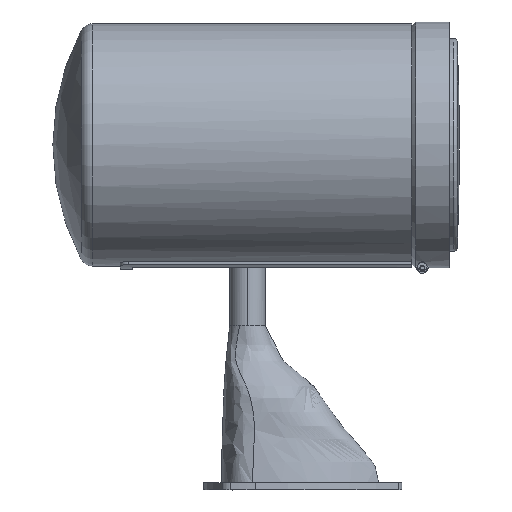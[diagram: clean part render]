
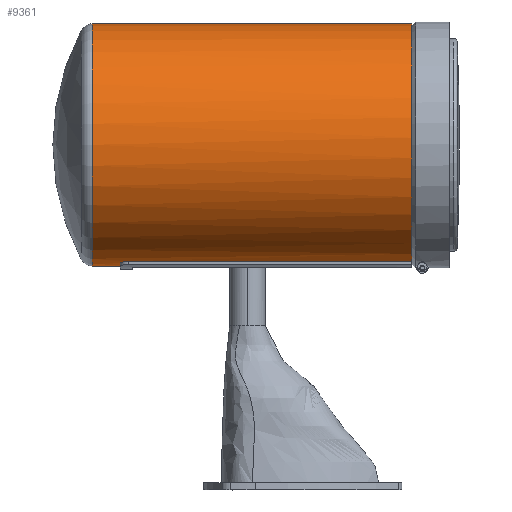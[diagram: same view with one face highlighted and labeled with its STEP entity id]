
A CAD part, top view. The second image highlights one B-rep face of the part: STEP entity #9361.
In plain terms, the highlighted cylindrical face has radius 74.93 mm (diameter 149.86 mm), a partial arc.
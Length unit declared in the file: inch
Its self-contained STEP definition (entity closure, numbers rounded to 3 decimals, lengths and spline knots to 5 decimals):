
#48 = CARTESIAN_POINT ( 'NONE',  ( 0.86, 0.63, 2.88194 ) ) ;
#50 = DIRECTION ( 'NONE',  ( 0., 0., -1. ) ) ;
#93 = CARTESIAN_POINT ( 'NONE',  ( 0.93687, 0.78808, 2.8428 ) ) ;
#149 = DIRECTION ( 'NONE',  ( -1., 0., 0. ) ) ;
#231 = DIRECTION ( 'NONE',  ( -1., 0., 0. ) ) ;
#544 = CARTESIAN_POINT ( 'NONE',  ( 7.96, 0., 2.95 ) ) ;
#697 = EDGE_CURVE ( 'NONE', #7071, #6624, #7953, .T. ) ;
#895 = AXIS2_PLACEMENT_3D ( 'NONE', #7655, #149, #2030 ) ;
#1018 = CARTESIAN_POINT ( 'NONE',  ( 0.9702, 0.80898, 2.83691 ) ) ;
#1165 = VERTEX_POINT ( 'NONE', #7844 ) ;
#1479 = VERTEX_POINT ( 'NONE', #9478 ) ;
#1577 = AXIS2_PLACEMENT_3D ( 'NONE', #6619, #4746, #5712 ) ;
#1861 = CYLINDRICAL_SURFACE ( 'NONE', #895, 2.95 ) ;
#1976 = CARTESIAN_POINT ( 'NONE',  ( 0.99465, 0.81895, 2.83405 ) ) ;
#2030 = DIRECTION ( 'NONE',  ( 0., 0., 1. ) ) ;
#2170 = FACE_OUTER_BOUND ( 'NONE', #9550, .T. ) ;
#2699 = AXIS2_PLACEMENT_3D ( 'NONE', #11274, #5675, #50 ) ;
#2723 = EDGE_CURVE ( 'NONE', #7071, #1479, #11773, .T. ) ;
#2730 = VECTOR ( 'NONE', #231, 39.37008 ) ;
#2902 = CARTESIAN_POINT ( 'NONE',  ( 1.01371, 0.82456, 2.83242 ) ) ;
#3154 = CARTESIAN_POINT ( 'NONE',  ( 7.96, 0., -2.95 ) ) ;
#3395 = ORIENTED_EDGE ( 'NONE', *, *, #4806, .T. ) ;
#3825 = CARTESIAN_POINT ( 'NONE',  ( 0.8664, 0.68155, 2.87022 ) ) ;
#3879 = CARTESIAN_POINT ( 'NONE',  ( 1.0466, 0.83, 2.83083 ) ) ;
#4228 = CIRCLE ( 'NONE', #2699, 2.95 ) ;
#4382 = EDGE_CURVE ( 'NONE', #9000, #9519, #5451, .T. ) ;
#4431 = DIRECTION ( 'NONE',  ( 1., 0., 0. ) ) ;
#4568 = ORIENTED_EDGE ( 'NONE', *, *, #2723, .T. ) ;
#4746 = DIRECTION ( 'NONE',  ( -1., 0., 0. ) ) ;
#4778 = CARTESIAN_POINT ( 'NONE',  ( 0.88493, 0.72993, 2.85838 ) ) ;
#4806 = EDGE_CURVE ( 'NONE', #1479, #1165, #6734, .T. ) ;
#4920 = CARTESIAN_POINT ( 'NONE',  ( 7.96, 0.83, 2.83083 ) ) ;
#5451 = LINE ( 'NONE', #3154, #11014 ) ;
#5663 = ORIENTED_EDGE ( 'NONE', *, *, #697, .F. ) ;
#5675 = DIRECTION ( 'NONE',  ( 1., 0., 0. ) ) ;
#5712 = DIRECTION ( 'NONE',  ( 0., 0., 1. ) ) ;
#5716 = CARTESIAN_POINT ( 'NONE',  ( 0.92673, 0.77969, 2.84511 ) ) ;
#5788 = VECTOR ( 'NONE', #6028, 39.37008 ) ;
#5805 = AXIS2_PLACEMENT_3D ( 'NONE', #10029, #4431, #10963 ) ;
#5941 = CARTESIAN_POINT ( 'NONE',  ( 0.86, 0., 2.95 ) ) ;
#6028 = DIRECTION ( 'NONE',  ( -1., 0., 0. ) ) ;
#6098 = CARTESIAN_POINT ( 'NONE',  ( 7.96, 0., -2.95 ) ) ;
#6244 = CARTESIAN_POINT ( 'NONE',  ( 0.17757, 0., -2.95 ) ) ;
#6248 = EDGE_CURVE ( 'NONE', #10166, #1165, #7736, .T. ) ;
#6619 = CARTESIAN_POINT ( 'NONE',  ( 0.86, 0., 0. ) ) ;
#6624 = VERTEX_POINT ( 'NONE', #7920 ) ;
#6673 = CARTESIAN_POINT ( 'NONE',  ( 0.95862, 0.80272, 2.8387 ) ) ;
#6734 = B_SPLINE_CURVE_WITH_KNOTS ( 'NONE', 3,
 ( #48, #9380, #9426, #3825, #10369, #4778, #11318, #5716, #93, #6673, #1018, #7585, #1976, #8539, #2902, #9466, #3879, #10416 ),
 .UNSPECIFIED., .F., .F.,
 ( 4, 2, 2, 2, 2, 2, 2, 2, 4 ),
 ( 0., 0.125, 0.25, 0.5, 0.625, 0.75, 0.8125, 0.875, 1. ),
 .UNSPECIFIED. ) ;
#6857 = DIRECTION ( 'NONE',  ( -1., 0., 0. ) ) ;
#7071 = VERTEX_POINT ( 'NONE', #5941 ) ;
#7585 = CARTESIAN_POINT ( 'NONE',  ( 0.98849, 0.8167, 2.8347 ) ) ;
#7655 = CARTESIAN_POINT ( 'NONE',  ( 7.96, 0., 0. ) ) ;
#7736 = LINE ( 'NONE', #4920, #2730 ) ;
#7844 = CARTESIAN_POINT ( 'NONE',  ( 1.06, 0.83, 2.83083 ) ) ;
#7920 = CARTESIAN_POINT ( 'NONE',  ( 0.17757, 0., 2.95 ) ) ;
#7953 = LINE ( 'NONE', #544, #5788 ) ;
#8268 = CIRCLE ( 'NONE', #5805, 2.95 ) ;
#8301 = CARTESIAN_POINT ( 'NONE',  ( 7.96, 0.83, 2.83083 ) ) ;
#8539 = CARTESIAN_POINT ( 'NONE',  ( 1.00735, 0.82291, 2.8329 ) ) ;
#9000 = VERTEX_POINT ( 'NONE', #6098 ) ;
#9361 = ADVANCED_FACE ( 'NONE', ( #2170 ), #1861, .T. ) ;
#9380 = CARTESIAN_POINT ( 'NONE',  ( 0.86, 0.64305, 2.87909 ) ) ;
#9426 = CARTESIAN_POINT ( 'NONE',  ( 0.86132, 0.65614, 2.87613 ) ) ;
#9466 = CARTESIAN_POINT ( 'NONE',  ( 1.03333, 0.82861, 2.83124 ) ) ;
#9478 = CARTESIAN_POINT ( 'NONE',  ( 0.86, 0.63, 2.88194 ) ) ;
#9519 = VERTEX_POINT ( 'NONE', #6244 ) ;
#9550 = EDGE_LOOP ( 'NONE', ( #11400, #10484, #10833, #5663, #4568, #3395, #11030 ) ) ;
#10029 = CARTESIAN_POINT ( 'NONE',  ( 7.96, 0., 0. ) ) ;
#10166 = VERTEX_POINT ( 'NONE', #8301 ) ;
#10296 = EDGE_CURVE ( 'NONE', #9519, #6624, #4228, .T. ) ;
#10369 = CARTESIAN_POINT ( 'NONE',  ( 0.87017, 0.694, 2.86723 ) ) ;
#10416 = CARTESIAN_POINT ( 'NONE',  ( 1.06, 0.83, 2.83083 ) ) ;
#10484 = ORIENTED_EDGE ( 'NONE', *, *, #4382, .T. ) ;
#10833 = ORIENTED_EDGE ( 'NONE', *, *, #10296, .T. ) ;
#10963 = DIRECTION ( 'NONE',  ( 0., 0., -1. ) ) ;
#11014 = VECTOR ( 'NONE', #6857, 39.37008 ) ;
#11030 = ORIENTED_EDGE ( 'NONE', *, *, #6248, .F. ) ;
#11274 = CARTESIAN_POINT ( 'NONE',  ( 0.17757, 0., 0. ) ) ;
#11318 = CARTESIAN_POINT ( 'NONE',  ( 0.89938, 0.75196, 2.85262 ) ) ;
#11400 = ORIENTED_EDGE ( 'NONE', *, *, #11980, .F. ) ;
#11773 = CIRCLE ( 'NONE', #1577, 2.95 ) ;
#11980 = EDGE_CURVE ( 'NONE', #9000, #10166, #8268, .T. ) ;
